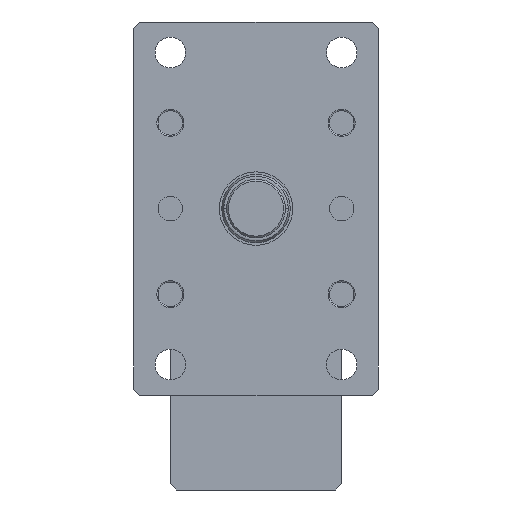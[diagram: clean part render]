
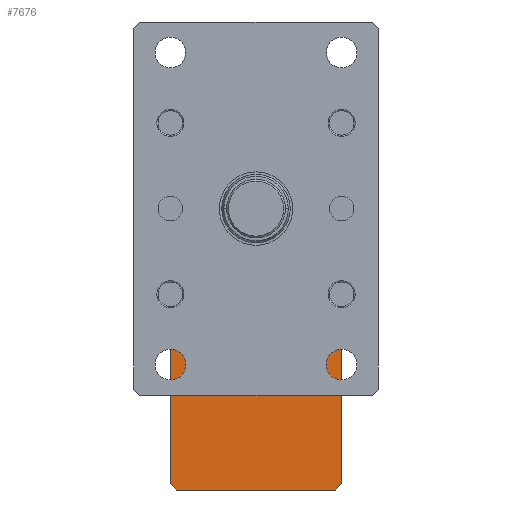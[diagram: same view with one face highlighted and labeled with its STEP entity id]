
A CAD part, left-side view. The second image highlights one B-rep face of the part: STEP entity #7676.
In plain terms, the highlighted planar face has unit normal (-1, 0, 0).
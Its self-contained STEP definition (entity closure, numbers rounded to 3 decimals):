
#185 = EDGE_CURVE ( 'NONE', #5533, #6401, #2685, .T. ) ;
#414 = ORIENTED_EDGE ( 'NONE', *, *, #7651, .T. ) ;
#904 = CARTESIAN_POINT ( 'NONE',  ( 427.5, -70., -225. ) ) ;
#1008 = VECTOR ( 'NONE', #5579, 1000. ) ;
#1025 = CARTESIAN_POINT ( 'NONE',  ( 427.5, 70., -225. ) ) ;
#1370 = ORIENTED_EDGE ( 'NONE', *, *, #2343, .T. ) ;
#1472 = ORIENTED_EDGE ( 'NONE', *, *, #2399, .T. ) ;
#1599 = CARTESIAN_POINT ( 'NONE',  ( 427.5, -65., -230. ) ) ;
#1758 = VECTOR ( 'NONE', #2610, 1000. ) ;
#1839 = CARTESIAN_POINT ( 'NONE',  ( 427.5, 70., -90. ) ) ;
#2067 = LINE ( 'NONE', #7120, #7369 ) ;
#2124 = ORIENTED_EDGE ( 'NONE', *, *, #2635, .T. ) ;
#2343 = EDGE_CURVE ( 'NONE', #5328, #5533, #2067, .T. ) ;
#2399 = EDGE_CURVE ( 'NONE', #6401, #5649, #7132, .T. ) ;
#2544 = ORIENTED_EDGE ( 'NONE', *, *, #185, .T. ) ;
#2610 = DIRECTION ( 'NONE',  ( 0., 1., 0. ) ) ;
#2635 = EDGE_CURVE ( 'NONE', #3292, #5328, #6296, .T. ) ;
#2685 = LINE ( 'NONE', #1839, #4542 ) ;
#2745 = VERTEX_POINT ( 'NONE', #8886 ) ;
#2867 = DIRECTION ( 'NONE',  ( 1., 0., 0. ) ) ;
#2894 = EDGE_CURVE ( 'NONE', #2745, #3292, #7602, .T. ) ;
#2983 = DIRECTION ( 'NONE',  ( 0., 0., 1. ) ) ;
#3292 = VERTEX_POINT ( 'NONE', #904 ) ;
#3578 = LINE ( 'NONE', #4033, #1758 ) ;
#3744 = CARTESIAN_POINT ( 'NONE',  ( 427.5, 65., -90. ) ) ;
#4033 = CARTESIAN_POINT ( 'NONE',  ( 427.5, 70., -230. ) ) ;
#4158 = VECTOR ( 'NONE', #6415, 1000. ) ;
#4178 = ORIENTED_EDGE ( 'NONE', *, *, #2894, .T. ) ;
#4182 = CARTESIAN_POINT ( 'NONE',  ( 427.5, 65., -230. ) ) ;
#4186 = ORIENTED_EDGE ( 'NONE', *, *, #8584, .F. ) ;
#4322 = EDGE_LOOP ( 'NONE', ( #2124, #1370, #2544, #1472, #4186, #414, #5240, #4178 ) ) ;
#4343 = CARTESIAN_POINT ( 'NONE',  ( 427.5, 70., -230. ) ) ;
#4462 = VECTOR ( 'NONE', #2983, 1000. ) ;
#4510 = DIRECTION ( 'NONE',  ( 0., 0.707, -0.707 ) ) ;
#4514 = VECTOR ( 'NONE', #8776, 1000. ) ;
#4542 = VECTOR ( 'NONE', #4599, 1000. ) ;
#4555 = VERTEX_POINT ( 'NONE', #1025 ) ;
#4599 = DIRECTION ( 'NONE',  ( 0., 1., 0. ) ) ;
#4939 = CARTESIAN_POINT ( 'NONE',  ( 427.5, 70., -230. ) ) ;
#5081 = DIRECTION ( 'NONE',  ( 0., 0.707, 0.707 ) ) ;
#5240 = ORIENTED_EDGE ( 'NONE', *, *, #8294, .F. ) ;
#5328 = VERTEX_POINT ( 'NONE', #7403 ) ;
#5533 = VERTEX_POINT ( 'NONE', #5644 ) ;
#5579 = DIRECTION ( 'NONE',  ( 0., -0.707, -0.707 ) ) ;
#5644 = CARTESIAN_POINT ( 'NONE',  ( 427.5, -65., -90. ) ) ;
#5649 = VERTEX_POINT ( 'NONE', #7202 ) ;
#6250 = LINE ( 'NONE', #4343, #4462 ) ;
#6254 = PLANE ( 'NONE',  #8830 ) ;
#6262 = FACE_OUTER_BOUND ( 'NONE', #4322, .T. ) ;
#6296 = LINE ( 'NONE', #6472, #4514 ) ;
#6401 = VERTEX_POINT ( 'NONE', #3744 ) ;
#6415 = DIRECTION ( 'NONE',  ( 0., -0.707, 0.707 ) ) ;
#6472 = CARTESIAN_POINT ( 'NONE',  ( 427.5, -70., -230. ) ) ;
#6499 = LINE ( 'NONE', #4182, #1008 ) ;
#6912 = VECTOR ( 'NONE', #4510, 1000. ) ;
#7120 = CARTESIAN_POINT ( 'NONE',  ( 427.5, -70., -95. ) ) ;
#7132 = LINE ( 'NONE', #8629, #6912 ) ;
#7202 = CARTESIAN_POINT ( 'NONE',  ( 427.5, 70., -95. ) ) ;
#7316 = CARTESIAN_POINT ( 'NONE',  ( 427.5, 65., -230. ) ) ;
#7369 = VECTOR ( 'NONE', #5081, 1000. ) ;
#7403 = CARTESIAN_POINT ( 'NONE',  ( 427.5, -70., -95. ) ) ;
#7602 = LINE ( 'NONE', #1599, #4158 ) ;
#7651 = EDGE_CURVE ( 'NONE', #4555, #8165, #6499, .T. ) ;
#7676 = ADVANCED_FACE ( 'NONE', ( #6262 ), #6254, .F. ) ;
#7697 = DIRECTION ( 'NONE',  ( 0., 1., 0. ) ) ;
#8165 = VERTEX_POINT ( 'NONE', #7316 ) ;
#8294 = EDGE_CURVE ( 'NONE', #2745, #8165, #3578, .T. ) ;
#8584 = EDGE_CURVE ( 'NONE', #4555, #5649, #6250, .T. ) ;
#8629 = CARTESIAN_POINT ( 'NONE',  ( 427.5, 70., -95. ) ) ;
#8776 = DIRECTION ( 'NONE',  ( 0., 0., 1. ) ) ;
#8830 = AXIS2_PLACEMENT_3D ( 'NONE', #4939, #2867, #7697 ) ;
#8886 = CARTESIAN_POINT ( 'NONE',  ( 427.5, -65., -230. ) ) ;
